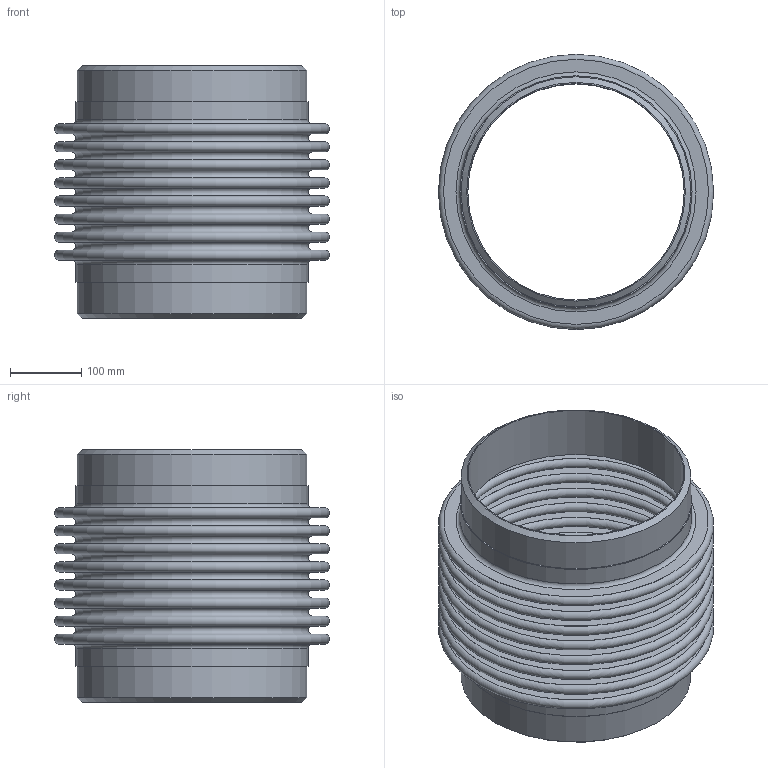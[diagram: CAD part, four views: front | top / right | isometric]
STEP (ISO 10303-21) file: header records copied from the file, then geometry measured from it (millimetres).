
FILE_DESCRIPTION(/* description */ (''),/* implementation_level */ '2;1');
FILE_NAME(/* name */ 'PIPE- 12 - 150 PSIG ASSEMBLY PART.stp',/* time_stamp */ '2026-07-24T15:33:57-05:00',/* author */ ('jorgef'),/* organization */ (''),/* preprocessor_version */ 'ST-DEVELOPER v20.1',/* originating_system */ 'Autodesk Inventor 2026',/* authorisation */ '');
FILE_SCHEMA (('AUTOMOTIVE_DESIGN { 1 0 10303 214 3 1 1 }'));
Length unit declared in the file: inch
Products named in the file (1): PIPE- 12 - 150 PSIG ASSEMBLY PART
Bounding box: 387.35 x 387.35 x 355.6 mm (x, y, z)
Volume: 2485036.8 mm3; surface area: 1673610.6 mm2
Topology: 1 solids, 1 shells, 80 faces, 126 edges, 84 vertices
Faces by surface type: plane 38, torus 34, cylinder 6, cone 2
Full cylindrical faces by diameter (mm): 304.8 x2, 323.85 x2, 326.898 x2
Entity records: 2035 total; most frequent: DIRECTION 406, CARTESIAN_POINT 291, ORIENTED_EDGE 252, AXIS2_PLACEMENT_3D 199, EDGE_CURVE 126, EDGE_LOOP 118, CIRCLE 118, VERTEX_POINT 84
